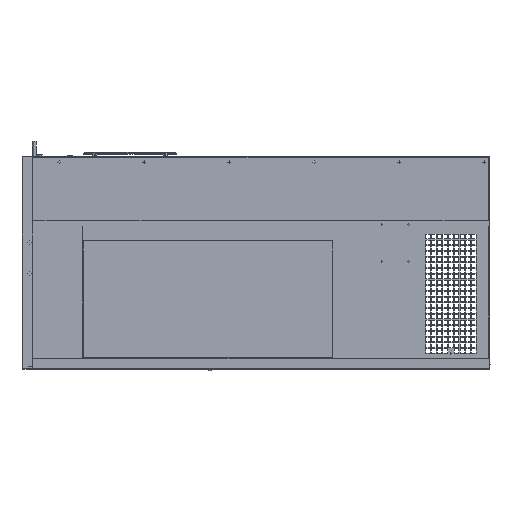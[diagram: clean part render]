
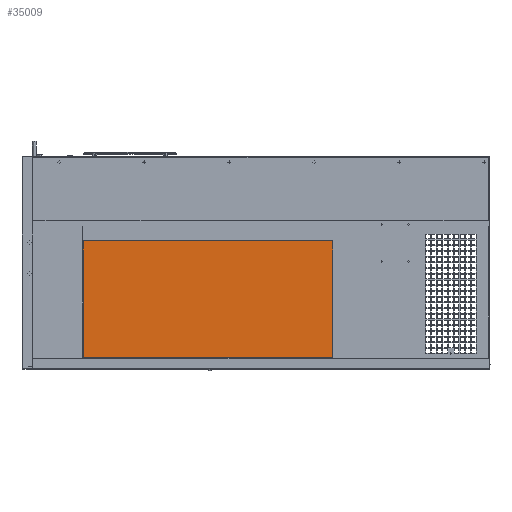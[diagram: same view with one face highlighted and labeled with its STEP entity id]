
A CAD part, left-side view. The second image highlights one B-rep face of the part: STEP entity #35009.
In plain terms, the highlighted planar face has unit normal (1, 0, 0).
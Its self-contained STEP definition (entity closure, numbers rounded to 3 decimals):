
#7789 = VECTOR ( 'NONE', #90943, 39.37 ) ;
#8674 = LINE ( 'NONE', #139383, #132835 ) ;
#11535 = VERTEX_POINT ( 'NONE', #120072 ) ;
#11747 = DIRECTION ( 'NONE',  ( 0., 1., 0. ) ) ;
#12526 = LINE ( 'NONE', #155950, #85039 ) ;
#13105 = EDGE_CURVE ( 'NONE', #83148, #11535, #29607, .T. ) ;
#16554 = CARTESIAN_POINT ( 'NONE',  ( -8.818, 16.365, -19.34 ) ) ;
#17219 = CARTESIAN_POINT ( 'NONE',  ( -8.817, -7.635, -6.59 ) ) ;
#19029 = DIRECTION ( 'NONE',  ( 0., 0., -1. ) ) ;
#21405 = LINE ( 'NONE', #80376, #39633 ) ;
#25376 = VECTOR ( 'NONE', #86837, 39.37 ) ;
#26552 = ORIENTED_EDGE ( 'NONE', *, *, #93400, .T. ) ;
#26608 = ORIENTED_EDGE ( 'NONE', *, *, #62532, .T. ) ;
#27488 = AXIS2_PLACEMENT_3D ( 'NONE', #93859, #104253, #19029 ) ;
#29607 = LINE ( 'NONE', #42345, #7789 ) ;
#33780 = VECTOR ( 'NONE', #56212, 39.37 ) ;
#35009 = ADVANCED_FACE ( 'NONE', ( #45296 ), #69208, .T. ) ;
#35628 = VERTEX_POINT ( 'NONE', #54538 ) ;
#38257 = CARTESIAN_POINT ( 'NONE',  ( -8.818, 4.24, -12.965 ) ) ;
#39633 = VECTOR ( 'NONE', #117042, 39.37 ) ;
#41298 = VERTEX_POINT ( 'NONE', #73410 ) ;
#41537 = CARTESIAN_POINT ( 'NONE',  ( -8.818, 4.49, -12.965 ) ) ;
#42345 = CARTESIAN_POINT ( 'NONE',  ( -8.818, 4.365, -19.34 ) ) ;
#45296 = FACE_OUTER_BOUND ( 'NONE', #108128, .T. ) ;
#49398 = CARTESIAN_POINT ( 'NONE',  ( -8.818, 16.365, -12.965 ) ) ;
#51801 = LINE ( 'NONE', #38257, #25376 ) ;
#54277 = LINE ( 'NONE', #41537, #145606 ) ;
#54538 = CARTESIAN_POINT ( 'NONE',  ( -8.818, 4.49, -19.34 ) ) ;
#56212 = DIRECTION ( 'NONE',  ( 0., 0., -1. ) ) ;
#57318 = DIRECTION ( 'NONE',  ( 0., 1., 0. ) ) ;
#62532 = EDGE_CURVE ( 'NONE', #156892, #41298, #8674, .T. ) ;
#64331 = VECTOR ( 'NONE', #122672, 39.37 ) ;
#69208 = PLANE ( 'NONE',  #27488 ) ;
#69625 = EDGE_CURVE ( 'NONE', #41298, #35628, #54277, .T. ) ;
#70838 = EDGE_CURVE ( 'NONE', #107548, #87475, #74071, .T. ) ;
#73410 = CARTESIAN_POINT ( 'NONE',  ( -8.818, 4.49, -19.24 ) ) ;
#74071 = LINE ( 'NONE', #49398, #64331 ) ;
#77667 = CARTESIAN_POINT ( 'NONE',  ( -8.818, -7.635, -19.34 ) ) ;
#79292 = LINE ( 'NONE', #107123, #33780 ) ;
#80376 = CARTESIAN_POINT ( 'NONE',  ( -8.817, 4.365, -6.59 ) ) ;
#82124 = ORIENTED_EDGE ( 'NONE', *, *, #70838, .T. ) ;
#83148 = VERTEX_POINT ( 'NONE', #77667 ) ;
#84774 = ORIENTED_EDGE ( 'NONE', *, *, #69625, .T. ) ;
#85039 = VECTOR ( 'NONE', #11747, 39.37 ) ;
#86658 = CARTESIAN_POINT ( 'NONE',  ( -8.817, 16.365, -6.59 ) ) ;
#86837 = DIRECTION ( 'NONE',  ( 0., 0., 1. ) ) ;
#87475 = VERTEX_POINT ( 'NONE', #86658 ) ;
#90110 = DIRECTION ( 'NONE',  ( 0., 0., -1. ) ) ;
#90943 = DIRECTION ( 'NONE',  ( 0., 1., 0. ) ) ;
#91785 = ORIENTED_EDGE ( 'NONE', *, *, #138793, .T. ) ;
#93400 = EDGE_CURVE ( 'NONE', #87475, #97768, #21405, .T. ) ;
#93859 = CARTESIAN_POINT ( 'NONE',  ( -8.818, 4.365, -12.965 ) ) ;
#97768 = VERTEX_POINT ( 'NONE', #17219 ) ;
#104218 = ORIENTED_EDGE ( 'NONE', *, *, #13105, .T. ) ;
#104253 = DIRECTION ( 'NONE',  ( 1., 0., 0. ) ) ;
#107123 = CARTESIAN_POINT ( 'NONE',  ( -8.818, -7.635, -12.965 ) ) ;
#107548 = VERTEX_POINT ( 'NONE', #16554 ) ;
#108128 = EDGE_LOOP ( 'NONE', ( #84774, #149230, #82124, #26552, #119098, #104218, #91785, #26608 ) ) ;
#117042 = DIRECTION ( 'NONE',  ( 0., -1., 0. ) ) ;
#119098 = ORIENTED_EDGE ( 'NONE', *, *, #148611, .T. ) ;
#120072 = CARTESIAN_POINT ( 'NONE',  ( -8.818, 4.24, -19.34 ) ) ;
#122672 = DIRECTION ( 'NONE',  ( 0., 0., 1. ) ) ;
#122764 = EDGE_CURVE ( 'NONE', #35628, #107548, #12526, .T. ) ;
#132835 = VECTOR ( 'NONE', #57318, 39.37 ) ;
#135766 = CARTESIAN_POINT ( 'NONE',  ( -8.818, 4.24, -19.24 ) ) ;
#138793 = EDGE_CURVE ( 'NONE', #11535, #156892, #51801, .T. ) ;
#139383 = CARTESIAN_POINT ( 'NONE',  ( -8.818, 4.365, -19.24 ) ) ;
#145606 = VECTOR ( 'NONE', #90110, 39.37 ) ;
#148611 = EDGE_CURVE ( 'NONE', #97768, #83148, #79292, .T. ) ;
#149230 = ORIENTED_EDGE ( 'NONE', *, *, #122764, .T. ) ;
#155950 = CARTESIAN_POINT ( 'NONE',  ( -8.818, 4.365, -19.34 ) ) ;
#156892 = VERTEX_POINT ( 'NONE', #135766 ) ;
